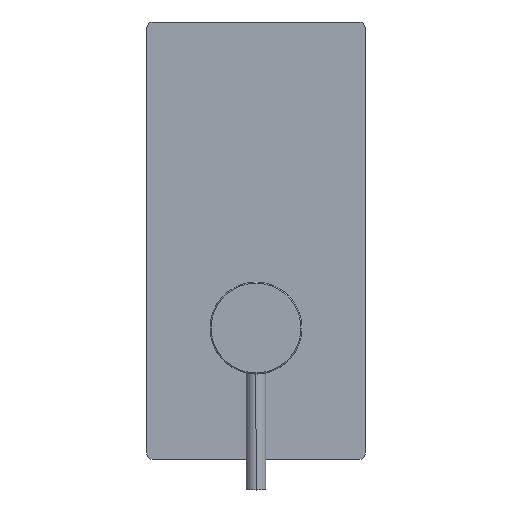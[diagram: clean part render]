
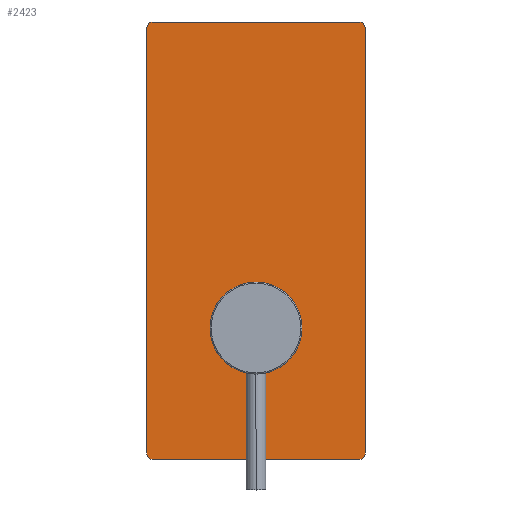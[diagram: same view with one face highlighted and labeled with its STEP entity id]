
A CAD part, top view. The second image highlights one B-rep face of the part: STEP entity #2423.
In plain terms, the highlighted planar face has unit normal (0, 0, 1).
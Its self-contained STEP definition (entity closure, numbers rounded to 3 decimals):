
#105 = CARTESIAN_POINT ( 'NONE',  ( -97., 47., 2. ) ) ;
#120 = ORIENTED_EDGE ( 'NONE', *, *, #13501, .T. ) ;
#266 = LINE ( 'NONE', #17274, #3970 ) ;
#557 = CARTESIAN_POINT ( 'NONE',  ( -97., -50., 2. ) ) ;
#740 = VECTOR ( 'NONE', #2659, 1000. ) ;
#848 = DIRECTION ( 'NONE',  ( 1., 0., 0. ) ) ;
#1211 = ORIENTED_EDGE ( 'NONE', *, *, #7686, .T. ) ;
#1345 = AXIS2_PLACEMENT_3D ( 'NONE', #19762, #10740, #4481 ) ;
#1772 = AXIS2_PLACEMENT_3D ( 'NONE', #9862, #12186, #848 ) ;
#2423 = ADVANCED_FACE ( 'NONE', ( #12939, #19177 ), #3599, .T. ) ;
#2588 = AXIS2_PLACEMENT_3D ( 'NONE', #10947, #17187, #8269 ) ;
#2633 = VERTEX_POINT ( 'NONE', #13927 ) ;
#2659 = DIRECTION ( 'NONE',  ( 0., 1., 0. ) ) ;
#2957 = CARTESIAN_POINT ( 'NONE',  ( 100., -47., 2. ) ) ;
#3494 = CARTESIAN_POINT ( 'NONE',  ( -97., 50., 2. ) ) ;
#3599 = PLANE ( 'NONE',  #1772 ) ;
#3665 = CARTESIAN_POINT ( 'NONE',  ( 97., -50., 2. ) ) ;
#3709 = CARTESIAN_POINT ( 'NONE',  ( -97., -47., 2. ) ) ;
#3869 = LINE ( 'NONE', #14743, #4371 ) ;
#3923 = CARTESIAN_POINT ( 'NONE',  ( 97., -47., 2. ) ) ;
#3970 = VECTOR ( 'NONE', #11136, 1000. ) ;
#4367 = VERTEX_POINT ( 'NONE', #7463 ) ;
#4371 = VECTOR ( 'NONE', #5506, 1000. ) ;
#4481 = DIRECTION ( 'NONE',  ( 1., 0., 0. ) ) ;
#4521 = ORIENTED_EDGE ( 'NONE', *, *, #15555, .T. ) ;
#4699 = VERTEX_POINT ( 'NONE', #8126 ) ;
#4800 = DIRECTION ( 'NONE',  ( 1., 0., 0. ) ) ;
#5047 = AXIS2_PLACEMENT_3D ( 'NONE', #105, #6337, #4800 ) ;
#5312 = EDGE_CURVE ( 'NONE', #4367, #4699, #3869, .T. ) ;
#5329 = DIRECTION ( 'NONE',  ( 1., 0., 0. ) ) ;
#5441 = DIRECTION ( 'NONE',  ( 1., 0., 0. ) ) ;
#5506 = DIRECTION ( 'NONE',  ( 0., -1., 0. ) ) ;
#6337 = DIRECTION ( 'NONE',  ( 0., 0., 1. ) ) ;
#6744 = EDGE_CURVE ( 'NONE', #2633, #18802, #10171, .T. ) ;
#6881 = CIRCLE ( 'NONE', #12460, 3. ) ;
#6956 = CARTESIAN_POINT ( 'NONE',  ( 97., 50., 2. ) ) ;
#6987 = VERTEX_POINT ( 'NONE', #3665 ) ;
#7087 = EDGE_LOOP ( 'NONE', ( #8265, #11619 ) ) ;
#7369 = LINE ( 'NONE', #10859, #740 ) ;
#7403 = VERTEX_POINT ( 'NONE', #557 ) ;
#7463 = CARTESIAN_POINT ( 'NONE',  ( -100., 47., 2. ) ) ;
#7627 = ORIENTED_EDGE ( 'NONE', *, *, #10405, .T. ) ;
#7686 = EDGE_CURVE ( 'NONE', #4699, #7403, #6881, .T. ) ;
#8126 = CARTESIAN_POINT ( 'NONE',  ( -100., -47., 2. ) ) ;
#8265 = ORIENTED_EDGE ( 'NONE', *, *, #10780, .F. ) ;
#8269 = DIRECTION ( 'NONE',  ( 1., 0., 0. ) ) ;
#8434 = VERTEX_POINT ( 'NONE', #2957 ) ;
#9617 = CARTESIAN_POINT ( 'NONE',  ( -40., 0., 2. ) ) ;
#9862 = CARTESIAN_POINT ( 'NONE',  ( 0., 0., 2. ) ) ;
#10018 = VERTEX_POINT ( 'NONE', #3494 ) ;
#10171 = CIRCLE ( 'NONE', #1345, 3. ) ;
#10405 = EDGE_CURVE ( 'NONE', #10018, #4367, #15177, .T. ) ;
#10625 = CARTESIAN_POINT ( 'NONE',  ( -60.7, 0., 2. ) ) ;
#10740 = DIRECTION ( 'NONE',  ( 0., 0., 1. ) ) ;
#10780 = EDGE_CURVE ( 'NONE', #19056, #15003, #11431, .T. ) ;
#10848 = VECTOR ( 'NONE', #5329, 1000. ) ;
#10859 = CARTESIAN_POINT ( 'NONE',  ( 100., -50., 2. ) ) ;
#10947 = CARTESIAN_POINT ( 'NONE',  ( -40., 0., 2. ) ) ;
#11136 = DIRECTION ( 'NONE',  ( -1., 0., 0. ) ) ;
#11431 = CIRCLE ( 'NONE', #2588, 20.7 ) ;
#11619 = ORIENTED_EDGE ( 'NONE', *, *, #12941, .F. ) ;
#11762 = ORIENTED_EDGE ( 'NONE', *, *, #15887, .T. ) ;
#12186 = DIRECTION ( 'NONE',  ( 0., 0., 1. ) ) ;
#12367 = ORIENTED_EDGE ( 'NONE', *, *, #6744, .T. ) ;
#12460 = AXIS2_PLACEMENT_3D ( 'NONE', #3709, #12942, #5441 ) ;
#12824 = CARTESIAN_POINT ( 'NONE',  ( 100., -50., 2. ) ) ;
#12939 = FACE_OUTER_BOUND ( 'NONE', #13328, .T. ) ;
#12941 = EDGE_CURVE ( 'NONE', #15003, #19056, #13460, .T. ) ;
#12942 = DIRECTION ( 'NONE',  ( 0., 0., 1. ) ) ;
#13328 = EDGE_LOOP ( 'NONE', ( #11762, #7627, #16649, #1211, #4521, #120, #19798, #12367 ) ) ;
#13460 = CIRCLE ( 'NONE', #16090, 20.7 ) ;
#13501 = EDGE_CURVE ( 'NONE', #6987, #8434, #19636, .T. ) ;
#13927 = CARTESIAN_POINT ( 'NONE',  ( 100., 47., 2. ) ) ;
#14743 = CARTESIAN_POINT ( 'NONE',  ( -100., -50., 2. ) ) ;
#14798 = DIRECTION ( 'NONE',  ( 0., 0., 1. ) ) ;
#15003 = VERTEX_POINT ( 'NONE', #17244 ) ;
#15177 = CIRCLE ( 'NONE', #5047, 3. ) ;
#15377 = AXIS2_PLACEMENT_3D ( 'NONE', #3923, #14798, #19504 ) ;
#15555 = EDGE_CURVE ( 'NONE', #7403, #6987, #15895, .T. ) ;
#15887 = EDGE_CURVE ( 'NONE', #18802, #10018, #266, .T. ) ;
#15895 = LINE ( 'NONE', #12824, #10848 ) ;
#16090 = AXIS2_PLACEMENT_3D ( 'NONE', #9617, #20169, #19040 ) ;
#16649 = ORIENTED_EDGE ( 'NONE', *, *, #5312, .T. ) ;
#17187 = DIRECTION ( 'NONE',  ( 0., 0., 1. ) ) ;
#17244 = CARTESIAN_POINT ( 'NONE',  ( -19.3, 0., 2. ) ) ;
#17274 = CARTESIAN_POINT ( 'NONE',  ( 100., 50., 2. ) ) ;
#17302 = EDGE_CURVE ( 'NONE', #8434, #2633, #7369, .T. ) ;
#18802 = VERTEX_POINT ( 'NONE', #6956 ) ;
#19040 = DIRECTION ( 'NONE',  ( 1., 0., 0. ) ) ;
#19056 = VERTEX_POINT ( 'NONE', #10625 ) ;
#19177 = FACE_BOUND ( 'NONE', #7087, .T. ) ;
#19504 = DIRECTION ( 'NONE',  ( 1., 0., 0. ) ) ;
#19636 = CIRCLE ( 'NONE', #15377, 3. ) ;
#19762 = CARTESIAN_POINT ( 'NONE',  ( 97., 47., 2. ) ) ;
#19798 = ORIENTED_EDGE ( 'NONE', *, *, #17302, .T. ) ;
#20169 = DIRECTION ( 'NONE',  ( 0., 0., 1. ) ) ;
